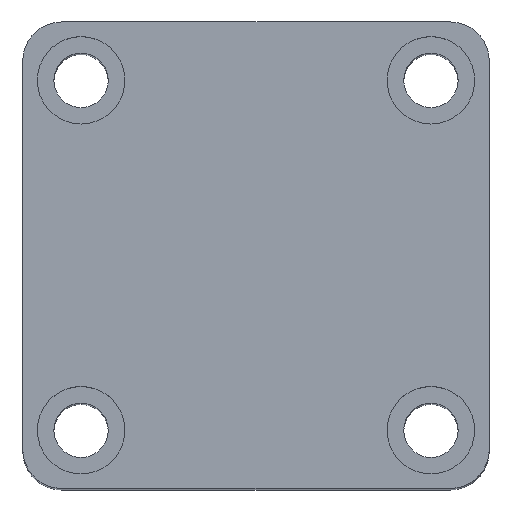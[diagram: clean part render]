
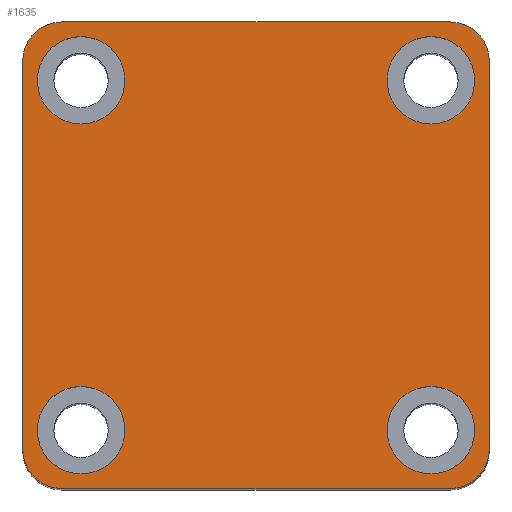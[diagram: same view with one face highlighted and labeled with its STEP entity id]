
A CAD part, top view. The second image highlights one B-rep face of the part: STEP entity #1635.
In plain terms, the highlighted planar face has unit normal (0, 0, 1).
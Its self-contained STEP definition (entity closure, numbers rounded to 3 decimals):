
#356 = VECTOR ( 'NONE', #1820, 1000. ) ;
#358 = LINE ( 'NONE', #1833, #356 ) ;
#369 = VECTOR ( 'NONE', #1847, 1000. ) ;
#373 = LINE ( 'NONE', #1841, #369 ) ;
#408 = VERTEX_POINT ( 'NONE', #1941 ) ;
#491 = EDGE_LOOP ( 'NONE', ( #737, #734 ) ) ;
#500 = EDGE_LOOP ( 'NONE', ( #722, #740 ) ) ;
#506 = EDGE_LOOP ( 'NONE', ( #739, #738 ) ) ;
#507 = EDGE_LOOP ( 'NONE', ( #733, #732, #731, #713, #712, #711, #710, #709 ) ) ;
#508 = EDGE_LOOP ( 'NONE', ( #724, #723 ) ) ;
#602 = VERTEX_POINT ( 'NONE', #1884 ) ;
#618 = VERTEX_POINT ( 'NONE', #1845 ) ;
#636 = VERTEX_POINT ( 'NONE', #1808 ) ;
#646 = VERTEX_POINT ( 'NONE', #1780 ) ;
#647 = VERTEX_POINT ( 'NONE', #1787 ) ;
#658 = VERTEX_POINT ( 'NONE', #1752 ) ;
#681 = VERTEX_POINT ( 'NONE', #1697 ) ;
#682 = VERTEX_POINT ( 'NONE', #1699 ) ;
#692 = VERTEX_POINT ( 'NONE', #1680 ) ;
#694 = VERTEX_POINT ( 'NONE', #1674 ) ;
#695 = VERTEX_POINT ( 'NONE', #1673 ) ;
#697 = VERTEX_POINT ( 'NONE', #1669 ) ;
#698 = VERTEX_POINT ( 'NONE', #1666 ) ;
#704 = VERTEX_POINT ( 'NONE', #1656 ) ;
#709 = ORIENTED_EDGE ( 'NONE', *, *, #1163, .T. ) ;
#710 = ORIENTED_EDGE ( 'NONE', *, *, #1179, .T. ) ;
#711 = ORIENTED_EDGE ( 'NONE', *, *, #1209, .T. ) ;
#712 = ORIENTED_EDGE ( 'NONE', *, *, #1134, .T. ) ;
#713 = ORIENTED_EDGE ( 'NONE', *, *, #1165, .T. ) ;
#722 = ORIENTED_EDGE ( 'NONE', *, *, #1169, .F. ) ;
#723 = ORIENTED_EDGE ( 'NONE', *, *, #1219, .F. ) ;
#724 = ORIENTED_EDGE ( 'NONE', *, *, #1170, .F. ) ;
#731 = ORIENTED_EDGE ( 'NONE', *, *, #1127, .T. ) ;
#732 = ORIENTED_EDGE ( 'NONE', *, *, #1172, .T. ) ;
#733 = ORIENTED_EDGE ( 'NONE', *, *, #1183, .T. ) ;
#734 = ORIENTED_EDGE ( 'NONE', *, *, #1161, .F. ) ;
#737 = ORIENTED_EDGE ( 'NONE', *, *, #1167, .F. ) ;
#738 = ORIENTED_EDGE ( 'NONE', *, *, #1184, .F. ) ;
#739 = ORIENTED_EDGE ( 'NONE', *, *, #1168, .F. ) ;
#740 = ORIENTED_EDGE ( 'NONE', *, *, #1223, .F. ) ;
#823 = VERTEX_POINT ( 'NONE', #2003 ) ;
#953 = AXIS2_PLACEMENT_3D ( 'NONE', #2257, #2256, #2250 ) ;
#1127 = EDGE_CURVE ( 'NONE', #618, #408, #373, .T. ) ;
#1134 = EDGE_CURVE ( 'NONE', #602, #646, #358, .T. ) ;
#1161 = EDGE_CURVE ( 'NONE', #697, #698, #1554, .T. ) ;
#1163 = EDGE_CURVE ( 'NONE', #636, #647, #1553, .T. ) ;
#1165 = EDGE_CURVE ( 'NONE', #408, #602, #1555, .T. ) ;
#1167 = EDGE_CURVE ( 'NONE', #698, #697, #1547, .T. ) ;
#1168 = EDGE_CURVE ( 'NONE', #704, #682, #1545, .T. ) ;
#1169 = EDGE_CURVE ( 'NONE', #695, #694, #1550, .T. ) ;
#1170 = EDGE_CURVE ( 'NONE', #692, #681, #1543, .T. ) ;
#1172 = EDGE_CURVE ( 'NONE', #823, #618, #1541, .T. ) ;
#1179 = EDGE_CURVE ( 'NONE', #658, #636, #1530, .T. ) ;
#1183 = EDGE_CURVE ( 'NONE', #647, #823, #1524, .T. ) ;
#1184 = EDGE_CURVE ( 'NONE', #682, #704, #1522, .T. ) ;
#1209 = EDGE_CURVE ( 'NONE', #646, #658, #1490, .T. ) ;
#1219 = EDGE_CURVE ( 'NONE', #681, #692, #1479, .T. ) ;
#1223 = EDGE_CURVE ( 'NONE', #694, #695, #1482, .T. ) ;
#1325 = FACE_BOUND ( 'NONE', #500, .T. ) ;
#1326 = FACE_BOUND ( 'NONE', #491, .T. ) ;
#1328 = FACE_BOUND ( 'NONE', #508, .T. ) ;
#1330 = FACE_BOUND ( 'NONE', #506, .T. ) ;
#1335 = FACE_OUTER_BOUND ( 'NONE', #507, .T. ) ;
#1479 = CIRCLE ( 'NONE', #2700, 4.5 ) ;
#1482 = CIRCLE ( 'NONE', #2696, 4.5 ) ;
#1490 = CIRCLE ( 'NONE', #2710, 4. ) ;
#1521 = VECTOR ( 'NONE', #2509, 1000. ) ;
#1522 = CIRCLE ( 'NONE', #2725, 4.5 ) ;
#1524 = LINE ( 'NONE', #2518, #1521 ) ;
#1528 = VECTOR ( 'NONE', #2582, 1000. ) ;
#1530 = LINE ( 'NONE', #2556, #1528 ) ;
#1541 = CIRCLE ( 'NONE', #2730, 4. ) ;
#1543 = CIRCLE ( 'NONE', #2731, 4.5 ) ;
#1545 = CIRCLE ( 'NONE', #2734, 4.5 ) ;
#1547 = CIRCLE ( 'NONE', #2735, 4.5 ) ;
#1550 = CIRCLE ( 'NONE', #2733, 4.5 ) ;
#1553 = CIRCLE ( 'NONE', #2739, 4. ) ;
#1554 = CIRCLE ( 'NONE', #2740, 4.5 ) ;
#1555 = CIRCLE ( 'NONE', #2738, 4. ) ;
#1635 = ADVANCED_FACE ( 'NONE', ( #1328, #1325, #1330, #1326, #1335 ), #2253, .T. ) ;
#1646 = DIRECTION ( 'NONE',  ( 1., 0., 0. ) ) ;
#1647 = DIRECTION ( 'NONE',  ( 0., 0., 1. ) ) ;
#1648 = CARTESIAN_POINT ( 'NONE',  ( -18., 18., 90. ) ) ;
#1650 = DIRECTION ( 'NONE',  ( 1., 0., 0. ) ) ;
#1651 = DIRECTION ( 'NONE',  ( 0., 0., 1. ) ) ;
#1652 = CARTESIAN_POINT ( 'NONE',  ( 18., 18., 90. ) ) ;
#1655 = DIRECTION ( 'NONE',  ( 1., 0., 0. ) ) ;
#1656 = CARTESIAN_POINT ( 'NONE',  ( -13.5, -18., 90. ) ) ;
#1658 = DIRECTION ( 'NONE',  ( 0., 0., 1. ) ) ;
#1659 = CARTESIAN_POINT ( 'NONE',  ( -18., -18., 90. ) ) ;
#1662 = DIRECTION ( 'NONE',  ( 1., 0., 0. ) ) ;
#1663 = DIRECTION ( 'NONE',  ( 0., 0., 1. ) ) ;
#1664 = CARTESIAN_POINT ( 'NONE',  ( 18., -18., 90. ) ) ;
#1666 = CARTESIAN_POINT ( 'NONE',  ( 22.5, -18., 90. ) ) ;
#1667 = DIRECTION ( 'NONE',  ( 1., 0., 0. ) ) ;
#1668 = DIRECTION ( 'NONE',  ( 0., 0., 1. ) ) ;
#1669 = CARTESIAN_POINT ( 'NONE',  ( 13.5, -18., 90. ) ) ;
#1671 = CARTESIAN_POINT ( 'NONE',  ( -20., -20., 90. ) ) ;
#1673 = CARTESIAN_POINT ( 'NONE',  ( 22.5, 18., 90. ) ) ;
#1674 = CARTESIAN_POINT ( 'NONE',  ( 13.5, 18., 90. ) ) ;
#1675 = DIRECTION ( 'NONE',  ( 1., 0., 0. ) ) ;
#1676 = DIRECTION ( 'NONE',  ( 0., 0., 1. ) ) ;
#1677 = CARTESIAN_POINT ( 'NONE',  ( 20., 20., 90. ) ) ;
#1680 = CARTESIAN_POINT ( 'NONE',  ( -13.5, 18., 90. ) ) ;
#1681 = DIRECTION ( 'NONE',  ( 1., 0., 0. ) ) ;
#1682 = DIRECTION ( 'NONE',  ( 0., 0., 1. ) ) ;
#1683 = CARTESIAN_POINT ( 'NONE',  ( 18., -18., 90. ) ) ;
#1697 = CARTESIAN_POINT ( 'NONE',  ( -22.5, 18., 90. ) ) ;
#1699 = CARTESIAN_POINT ( 'NONE',  ( -22.5, -18., 90. ) ) ;
#1752 = CARTESIAN_POINT ( 'NONE',  ( 24., -20., 90. ) ) ;
#1780 = CARTESIAN_POINT ( 'NONE',  ( 20., -24., 90. ) ) ;
#1787 = CARTESIAN_POINT ( 'NONE',  ( 20., 24., 90. ) ) ;
#1808 = CARTESIAN_POINT ( 'NONE',  ( 24., 20., 90. ) ) ;
#1820 = DIRECTION ( 'NONE',  ( 1., 0., 0. ) ) ;
#1833 = CARTESIAN_POINT ( 'NONE',  ( -24., -24., 90. ) ) ;
#1841 = CARTESIAN_POINT ( 'NONE',  ( -24., 24., 90. ) ) ;
#1845 = CARTESIAN_POINT ( 'NONE',  ( -24., 20., 90. ) ) ;
#1847 = DIRECTION ( 'NONE',  ( 0., -1., 0. ) ) ;
#1884 = CARTESIAN_POINT ( 'NONE',  ( -20., -24., 90. ) ) ;
#1941 = CARTESIAN_POINT ( 'NONE',  ( -24., -20., 90. ) ) ;
#2003 = CARTESIAN_POINT ( 'NONE',  ( -20., 24., 90. ) ) ;
#2046 = CARTESIAN_POINT ( 'NONE',  ( -18., 18., 90. ) ) ;
#2101 = DIRECTION ( 'NONE',  ( 0., 0., 1. ) ) ;
#2207 = DIRECTION ( 'NONE',  ( 1., 0., 0. ) ) ;
#2209 = DIRECTION ( 'NONE',  ( 0., 0., 1. ) ) ;
#2211 = CARTESIAN_POINT ( 'NONE',  ( 20., -20., 90. ) ) ;
#2250 = DIRECTION ( 'NONE',  ( 1., 0., 0. ) ) ;
#2253 = PLANE ( 'NONE',  #953 ) ;
#2256 = DIRECTION ( 'NONE',  ( 0., 0., 1. ) ) ;
#2257 = CARTESIAN_POINT ( 'NONE',  ( 0., 0., 90. ) ) ;
#2484 = DIRECTION ( 'NONE',  ( 1., 0., 0. ) ) ;
#2487 = DIRECTION ( 'NONE',  ( 0., 0., 1. ) ) ;
#2488 = CARTESIAN_POINT ( 'NONE',  ( -18., -18., 90. ) ) ;
#2509 = DIRECTION ( 'NONE',  ( -1., 0., 0. ) ) ;
#2518 = CARTESIAN_POINT ( 'NONE',  ( -24., 24., 90. ) ) ;
#2556 = CARTESIAN_POINT ( 'NONE',  ( 24., 24., 90. ) ) ;
#2582 = DIRECTION ( 'NONE',  ( 0., 1., 0. ) ) ;
#2588 = DIRECTION ( 'NONE',  ( 1., 0., 0. ) ) ;
#2590 = DIRECTION ( 'NONE',  ( 0., 0., 1. ) ) ;
#2591 = CARTESIAN_POINT ( 'NONE',  ( 18., 18., 90. ) ) ;
#2605 = DIRECTION ( 'NONE',  ( 1., 0., 0. ) ) ;
#2611 = DIRECTION ( 'NONE',  ( 1., 0., 0. ) ) ;
#2612 = DIRECTION ( 'NONE',  ( 0., 0., 1. ) ) ;
#2613 = CARTESIAN_POINT ( 'NONE',  ( -20., 20., 90. ) ) ;
#2696 = AXIS2_PLACEMENT_3D ( 'NONE', #2591, #2590, #2588 ) ;
#2700 = AXIS2_PLACEMENT_3D ( 'NONE', #2046, #2101, #2611 ) ;
#2710 = AXIS2_PLACEMENT_3D ( 'NONE', #2211, #2209, #2207 ) ;
#2725 = AXIS2_PLACEMENT_3D ( 'NONE', #2488, #2487, #2484 ) ;
#2730 = AXIS2_PLACEMENT_3D ( 'NONE', #2613, #2612, #2605 ) ;
#2731 = AXIS2_PLACEMENT_3D ( 'NONE', #1648, #1647, #1646 ) ;
#2733 = AXIS2_PLACEMENT_3D ( 'NONE', #1652, #1651, #1650 ) ;
#2734 = AXIS2_PLACEMENT_3D ( 'NONE', #1659, #1658, #1655 ) ;
#2735 = AXIS2_PLACEMENT_3D ( 'NONE', #1664, #1663, #1662 ) ;
#2738 = AXIS2_PLACEMENT_3D ( 'NONE', #1671, #1668, #1667 ) ;
#2739 = AXIS2_PLACEMENT_3D ( 'NONE', #1677, #1676, #1675 ) ;
#2740 = AXIS2_PLACEMENT_3D ( 'NONE', #1683, #1682, #1681 ) ;
